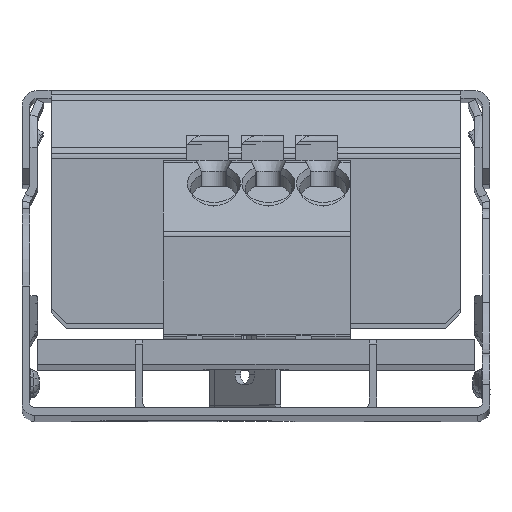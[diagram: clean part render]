
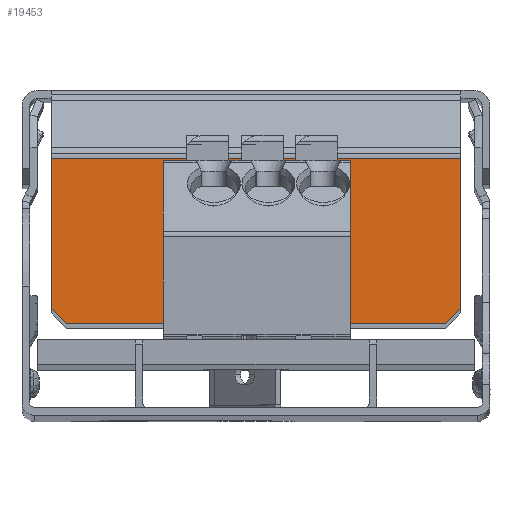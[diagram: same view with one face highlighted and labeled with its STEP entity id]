
A CAD part, top view. The second image highlights one B-rep face of the part: STEP entity #19453.
In plain terms, the highlighted planar face has unit normal (0, 0, 1).
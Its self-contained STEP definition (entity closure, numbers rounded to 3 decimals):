
#204 = ORIENTED_EDGE ( 'NONE', *, *, #4931, .F. ) ;
#562 = ORIENTED_EDGE ( 'NONE', *, *, #29746, .F. ) ;
#1615 = DIRECTION ( 'NONE',  ( -0.707, 0.707, 0. ) ) ;
#4931 = EDGE_CURVE ( 'NONE', #10194, #22890, #5113, .T. ) ;
#5113 = LINE ( 'NONE', #18079, #18009 ) ;
#5479 = CARTESIAN_POINT ( 'NONE',  ( 13.135, -138.141, 139.617 ) ) ;
#6127 = VERTEX_POINT ( 'NONE', #29325 ) ;
#6287 = CARTESIAN_POINT ( 'NONE',  ( 13.135, -128.559, 139.617 ) ) ;
#6384 = VECTOR ( 'NONE', #7041, 1000. ) ;
#6498 = CARTESIAN_POINT ( 'NONE',  ( -13.309, -137.968, 139.617 ) ) ;
#6624 = FACE_OUTER_BOUND ( 'NONE', #22497, .T. ) ;
#7034 = CARTESIAN_POINT ( 'NONE',  ( 0., -128.559, 139.617 ) ) ;
#7041 = DIRECTION ( 'NONE',  ( -1., 0., 0. ) ) ;
#8904 = PLANE ( 'NONE',  #16401 ) ;
#9766 = EDGE_CURVE ( 'NONE', #19006, #6127, #21189, .T. ) ;
#9918 = LINE ( 'NONE', #16549, #28565 ) ;
#10139 = EDGE_CURVE ( 'NONE', #10194, #6127, #26534, .T. ) ;
#10194 = VERTEX_POINT ( 'NONE', #6287 ) ;
#10313 = VECTOR ( 'NONE', #10628, 1000. ) ;
#10628 = DIRECTION ( 'NONE',  ( -0.707, -0.707, 0. ) ) ;
#11158 = VERTEX_POINT ( 'NONE', #25671 ) ;
#11316 = DIRECTION ( 'NONE',  ( -1., 0., 0. ) ) ;
#11860 = VECTOR ( 'NONE', #1615, 1000. ) ;
#12167 = ORIENTED_EDGE ( 'NONE', *, *, #9766, .F. ) ;
#13052 = CARTESIAN_POINT ( 'NONE',  ( 11.962, -139.314, 139.617 ) ) ;
#13666 = CARTESIAN_POINT ( 'NONE',  ( 13.661, -128.314, 139.617 ) ) ;
#14048 = DIRECTION ( 'NONE',  ( 0., 1., 0. ) ) ;
#14053 = CARTESIAN_POINT ( 'NONE',  ( -13.135, -133.85, 139.617 ) ) ;
#14152 = DIRECTION ( 'NONE',  ( -1., 0., 0. ) ) ;
#15316 = ORIENTED_EDGE ( 'NONE', *, *, #30033, .F. ) ;
#15361 = EDGE_CURVE ( 'NONE', #16574, #19006, #19054, .T. ) ;
#16401 = AXIS2_PLACEMENT_3D ( 'NONE', #13666, #25872, #11316 ) ;
#16549 = CARTESIAN_POINT ( 'NONE',  ( 0., -139.141, 139.617 ) ) ;
#16574 = VERTEX_POINT ( 'NONE', #22935 ) ;
#16777 = LINE ( 'NONE', #13052, #10313 ) ;
#18009 = VECTOR ( 'NONE', #22531, 1000. ) ;
#18079 = CARTESIAN_POINT ( 'NONE',  ( 13.135, -133.85, 139.617 ) ) ;
#19006 = VERTEX_POINT ( 'NONE', #28224 ) ;
#19054 = LINE ( 'NONE', #6498, #11860 ) ;
#19453 = ADVANCED_FACE ( 'NONE', ( #6624 ), #8904, .T. ) ;
#21189 = LINE ( 'NONE', #14053, #21964 ) ;
#21372 = ORIENTED_EDGE ( 'NONE', *, *, #15361, .F. ) ;
#21964 = VECTOR ( 'NONE', #14048, 1000. ) ;
#22497 = EDGE_LOOP ( 'NONE', ( #21372, #15316, #562, #204, #23474, #12167 ) ) ;
#22531 = DIRECTION ( 'NONE',  ( 0., -1., 0. ) ) ;
#22890 = VERTEX_POINT ( 'NONE', #5479 ) ;
#22935 = CARTESIAN_POINT ( 'NONE',  ( -12.135, -139.141, 139.617 ) ) ;
#23474 = ORIENTED_EDGE ( 'NONE', *, *, #10139, .T. ) ;
#25671 = CARTESIAN_POINT ( 'NONE',  ( 12.135, -139.141, 139.617 ) ) ;
#25872 = DIRECTION ( 'NONE',  ( 0., 0., 1. ) ) ;
#26534 = LINE ( 'NONE', #7034, #6384 ) ;
#28224 = CARTESIAN_POINT ( 'NONE',  ( -13.135, -138.141, 139.617 ) ) ;
#28565 = VECTOR ( 'NONE', #14152, 1000. ) ;
#29325 = CARTESIAN_POINT ( 'NONE',  ( -13.135, -128.559, 139.617 ) ) ;
#29746 = EDGE_CURVE ( 'NONE', #22890, #11158, #16777, .T. ) ;
#30033 = EDGE_CURVE ( 'NONE', #11158, #16574, #9918, .T. ) ;
